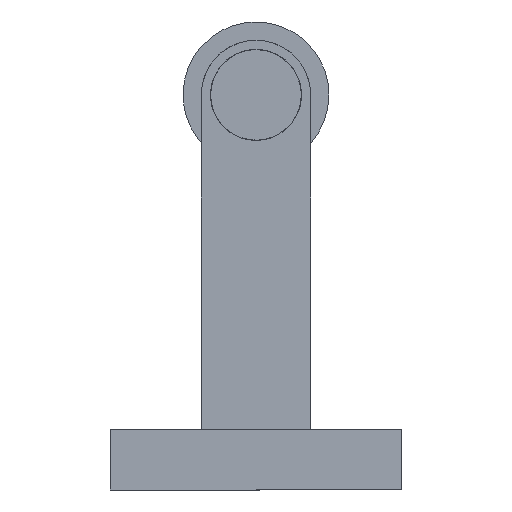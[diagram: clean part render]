
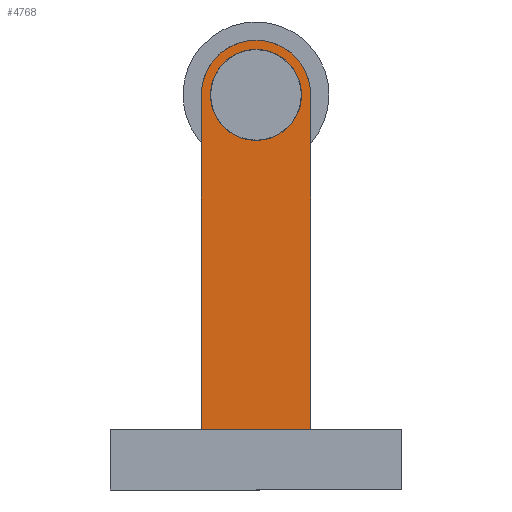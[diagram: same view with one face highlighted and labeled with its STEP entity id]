
A CAD part, left-side view. The second image highlights one B-rep face of the part: STEP entity #4768.
In plain terms, the highlighted planar face has unit normal (-1, 0, 0).
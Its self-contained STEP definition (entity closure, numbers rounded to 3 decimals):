
#132=FACE_BOUND('',#782,.T.);
#273=PLANE('',#5255);
#506=FACE_OUTER_BOUND('',#781,.T.);
#781=EDGE_LOOP('',(#4268,#4269,#4270,#4271));
#782=EDGE_LOOP('',(#4272,#4273));
#1067=LINE('',#7688,#1472);
#1182=LINE('',#8432,#1587);
#1184=LINE('',#8437,#1589);
#1472=VECTOR('',#6223,10.);
#1587=VECTOR('',#6540,10.);
#1589=VECTOR('',#6548,10.);
#1793=CIRCLE('',#5153,9.);
#1837=CIRCLE('',#5245,7.5);
#1838=CIRCLE('',#5246,7.5);
#2177=VERTEX_POINT('',#7685);
#2178=VERTEX_POINT('',#7687);
#2179=VERTEX_POINT('',#7691);
#2180=VERTEX_POINT('',#7692);
#2294=VERTEX_POINT('',#8377);
#2295=VERTEX_POINT('',#8378);
#2798=EDGE_CURVE('',#2178,#2177,#1067,.T.);
#2800=EDGE_CURVE('',#2179,#2180,#1793,.T.);
#2955=EDGE_CURVE('',#2294,#2295,#1837,.T.);
#2956=EDGE_CURVE('',#2295,#2294,#1838,.T.);
#2976=EDGE_CURVE('',#2178,#2179,#1182,.T.);
#2978=EDGE_CURVE('',#2177,#2180,#1184,.T.);
#4268=ORIENTED_EDGE('',*,*,#2800,.F.);
#4269=ORIENTED_EDGE('',*,*,#2976,.F.);
#4270=ORIENTED_EDGE('',*,*,#2798,.T.);
#4271=ORIENTED_EDGE('',*,*,#2978,.T.);
#4272=ORIENTED_EDGE('',*,*,#2955,.T.);
#4273=ORIENTED_EDGE('',*,*,#2956,.T.);
#4768=ADVANCED_FACE('',(#506,#132),#273,.T.);
#5153=AXIS2_PLACEMENT_3D('',#7693,#6227,#6228);
#5245=AXIS2_PLACEMENT_3D('',#8379,#6507,#6508);
#5246=AXIS2_PLACEMENT_3D('',#8380,#6509,#6510);
#5255=AXIS2_PLACEMENT_3D('',#8436,#6546,#6547);
#6223=DIRECTION('',(0.,-1.,0.));
#6227=DIRECTION('center_axis',(1.,0.,0.));
#6228=DIRECTION('ref_axis',(0.,1.,0.));
#6507=DIRECTION('center_axis',(1.,0.,0.));
#6508=DIRECTION('ref_axis',(0.,1.,0.));
#6509=DIRECTION('center_axis',(1.,0.,0.));
#6510=DIRECTION('ref_axis',(0.,1.,0.));
#6540=DIRECTION('',(0.,0.,1.));
#6546=DIRECTION('center_axis',(-1.,0.,0.));
#6547=DIRECTION('ref_axis',(0.,1.,0.));
#6548=DIRECTION('',(0.,0.,1.));
#7685=CARTESIAN_POINT('',(-9.,-5.5,11.5));
#7687=CARTESIAN_POINT('',(-9.,12.5,11.5));
#7688=CARTESIAN_POINT('',(-9.,12.5,11.5));
#7691=CARTESIAN_POINT('',(-9.,12.5,66.5));
#7692=CARTESIAN_POINT('',(-9.,-5.5,66.5));
#7693=CARTESIAN_POINT('Origin',(-9.,3.5,66.5));
#8377=CARTESIAN_POINT('',(-9.,11.,66.5));
#8378=CARTESIAN_POINT('',(-9.,3.5,74.));
#8379=CARTESIAN_POINT('Origin',(-9.,3.5,66.5));
#8380=CARTESIAN_POINT('Origin',(-9.,3.5,66.5));
#8432=CARTESIAN_POINT('',(-9.,12.5,11.5));
#8436=CARTESIAN_POINT('Origin',(-9.,-5.86,43.504));
#8437=CARTESIAN_POINT('',(-9.,-5.5,11.5));
